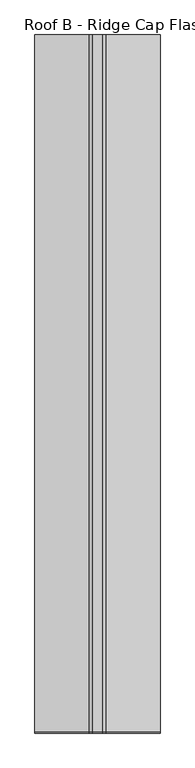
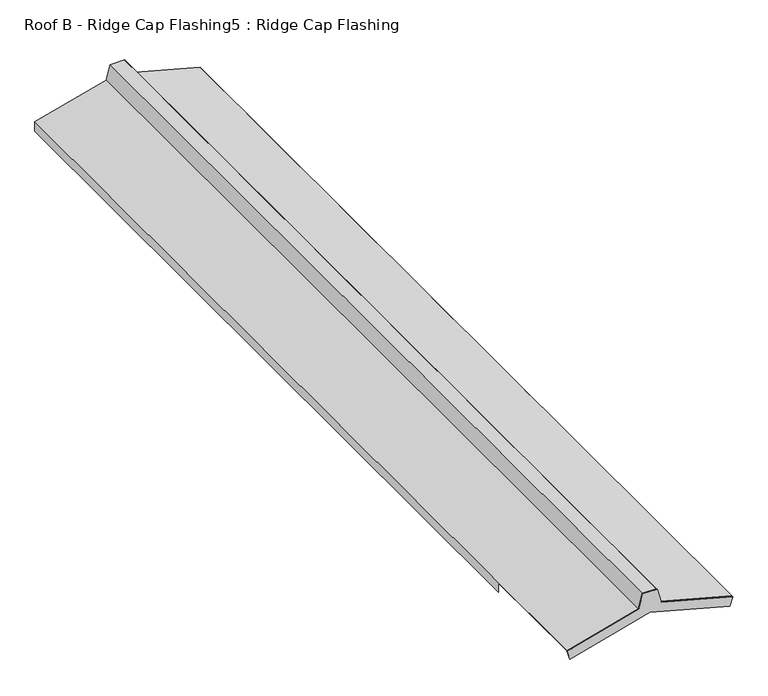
"""IFC4 building model written with IfcOpenShell, lengths in millimetres: proxy geometry, Roof B - Ridge Cap Flashing5 : Ridge Cap Flashing."""

from ifc_helpers import new_model, si_unit, frame, origin, place, context, project, spatial, polyline, outline, extrude, faceted_brep, source, transform, mapped, element, save


def roof_b_ridge_cap_flashing5_ridge_cap_flashing_602a528d(model_context):
    return source(origin(), model_context, "Body", "SolidModel", [
        extrude(outline(polyline([(4884.8612105, -27108.3586565), (4943.6791939, -27124.1188877), (4943.6791939, -27179.8669197), (4884.8612105, -27195.6271508), (4809.5785642, -27476.5858118), (4808.543288, -27476.5858118), (4773.4808811, -27466.1190714), (4857.6507341, -27151.9929037), (4773.4808811, -26837.866736), (4808.543288, -26827.3999956), (4809.5785642, -26827.3999956), (4884.8612105, -27108.3586565)])), frame((0.0, -34339.0446689, 0.0), z_axis=(0.0, 1.0, 0.0), x_axis=(0.0, 0.0, 1.0)), (0.0, 0.0, 1.0), 4.6653114),
        faceted_brep([(-27179.8669197, -30716.3625524, 4943.6791939), (-27124.1188877, -30716.3625524, 4943.6791939), (-27108.3586565, -30716.3625524, 4884.8612105), (-26827.3999956, -30716.3625524, 4809.5785642), (-26827.3999956, -30716.3625524, 4770.6763265), (-26828.3999956, -30716.3625524, 4770.6763265), (-26828.3999956, -30716.3625524, 4808.8112372), (-27109.1751531, -30716.3625524, 4884.0447139), (-27124.8862147, -30716.3625524, 4942.6791939), (-27179.0995927, -30716.3625524, 4942.6791939), (-27194.8106542, -30716.3625524, 4884.0447139), (-27475.5858118, -30716.3625524, 4808.8112372), (-27475.5858118, -30716.3625524, 4770.6763265), (-27476.5858118, -30716.3625524, 4770.6763265), (-27476.5858118, -30716.3625524, 4809.5785642), (-27195.6271508, -30716.3625524, 4884.8612105), (-27195.6271508, -34334.3793575, 4884.8612105), (-27476.5858118, -34334.3793575, 4809.5785642), (-27476.5858118, -34334.3793575, 4808.543288), (-27194.8106542, -34334.3793575, 4884.0447139), (-27179.0995927, -34334.3793575, 4942.6791939), (-27124.8862147, -34334.3793575, 4942.6791939), (-27109.1751531, -34334.3793575, 4884.0447139), (-26827.3999956, -34334.3793575, 4808.543288), (-26827.3999956, -34334.3793575, 4809.5785642), (-27108.3586565, -34334.3793575, 4884.8612105), (-27124.1188877, -34334.3793575, 4943.6791939), (-27179.8669197, -34334.3793575, 4943.6791939), (-27476.5858118, -33870.0110295, 4808.543288), (-27475.5858118, -33870.0110295, 4808.8112372), (-27475.5858118, -33870.0110295, 4770.6763265), (-27476.5858118, -33870.0110295, 4770.6763265), (-26827.3999956, -33870.0110295, 4808.543288), (-26827.3999956, -33870.0110295, 4770.6763265), (-26828.3999956, -33870.0110295, 4770.6763265), (-26828.3999956, -33870.0110295, 4808.8112372)], [[[0, 1, 2, 3, 4, 5, 6, 7, 8, 9, 10, 11, 12, 13, 14, 15]], [[16, 17, 18, 19, 20, 21, 22, 23, 24, 25, 26, 27]], [[1, 0, 27, 26]], [[2, 1, 26, 25]], [[8, 7, 22, 21]], [[9, 8, 21, 20]], [[11, 10, 19, 18, 28, 29]], [[15, 14, 17, 16]], [[10, 9, 20, 19]], [[12, 11, 29, 30]], [[13, 12, 30, 31]], [[14, 13, 31, 28, 18, 17]], [[0, 15, 16, 27]], [[3, 2, 25, 24]], [[4, 3, 24, 23, 32, 33]], [[5, 4, 33, 34]], [[6, 5, 34, 35]], [[7, 6, 35, 32, 23, 22]], [[32, 35, 34, 33]], [[29, 28, 31, 30]]]),
    ])


if __name__ == "__main__":
    model = new_model("IFC4")
    model_context = context("Model", 3, world=origin())
    ifc_project = project(units=[si_unit("LENGTHUNIT", "METRE", prefix="MILLI")], contexts=[model_context])
    site = spatial("IfcSite", under=ifc_project)
    building = spatial("IfcBuilding", under=site)
    placement = place(None, origin())
    roof_b_ridge_cap_flashing5_ridge_cap_flashing_shape = roof_b_ridge_cap_flashing5_ridge_cap_flashing_602a528d(model_context)
    element("IfcBuildingElementProxy", 1, Name="Roof B - Ridge Cap Flashing5 : Ridge Cap Flashing", ObjectType="Roof B - Ridge Cap Flashing5 : Ridge Cap Flashing", at=placement, inside=building, context=model_context, shape_type="MappedRepresentation", body=[
        mapped(roof_b_ridge_cap_flashing5_ridge_cap_flashing_shape, transform((0.0, 0.0, 0.0), x_axis=(1.0, 0.0, 0.0), y_axis=(0.0, 1.0, 0.0), z_axis=(0.0, 0.0, 1.0))),
    ])
    save(model, "model.ifc")
